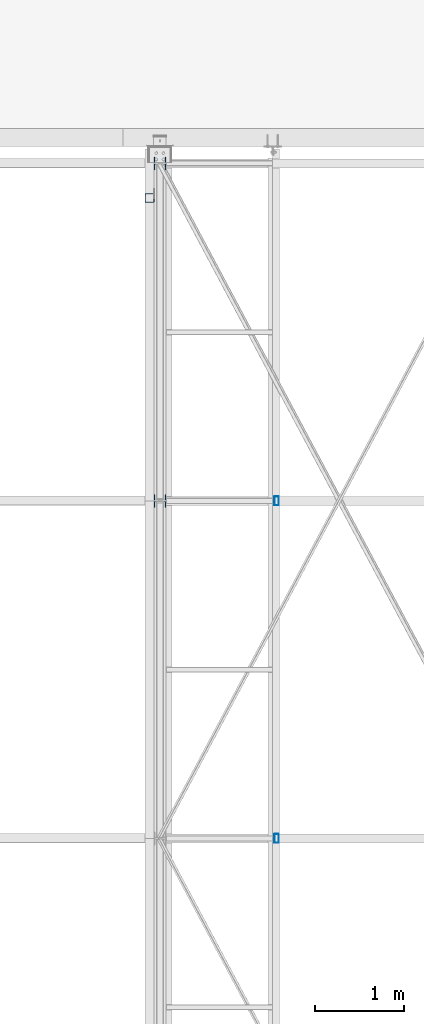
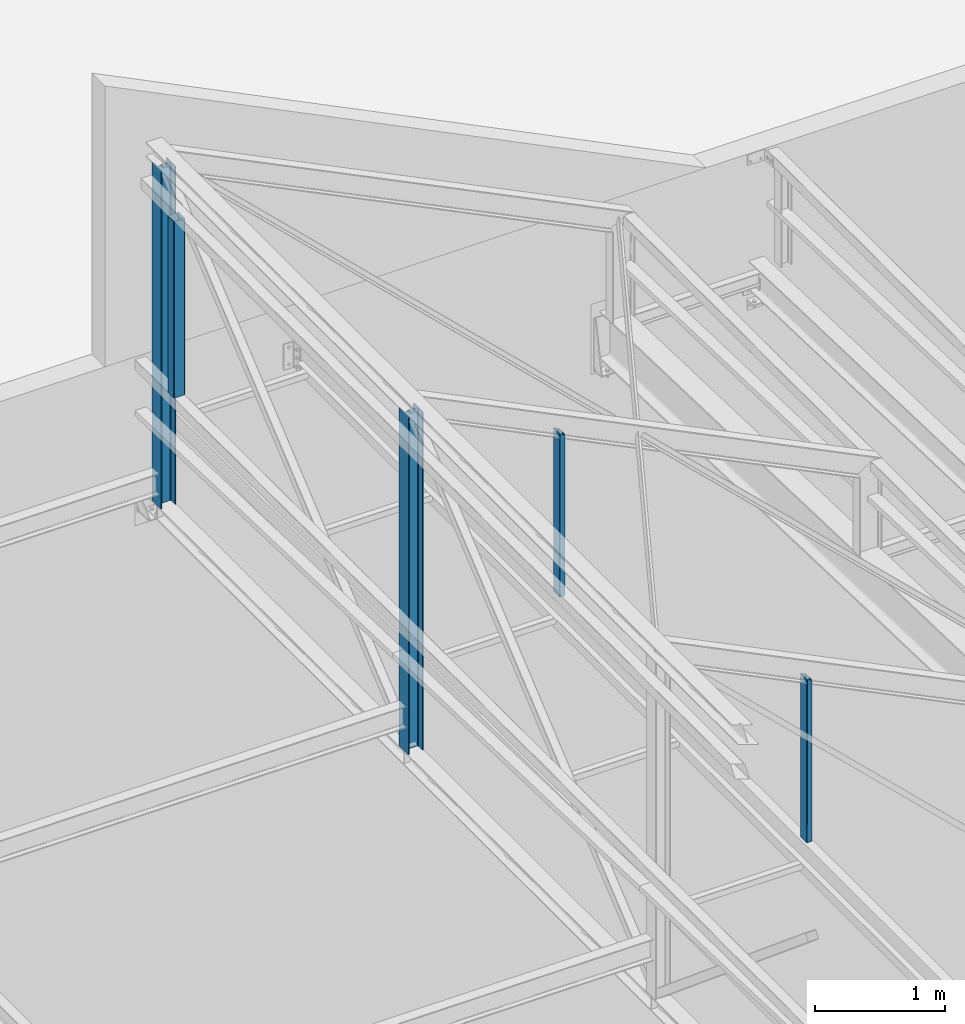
# One storey, part 14 of 123: 5 columns, 5 elements without a shape of their own.
"""IFC2X3 building model written with IfcOpenShell, lengths in millimetres."""

from ifc_helpers import new_model, si_unit, frame, origin_with_axes, origin_2d_with_axis, place, context, subcontext, project, spatial, hollow_rectangle, i_section, extrude, clip, halfspace, material, type_object, element, aggregate, save


model = new_model("IFC2X3")

# Units and contexts
model_context = context("Model", 3, precision=1e-05, world=origin_with_axes())
body_context = subcontext(model_context, "Body", "Model", "MODEL_VIEW")
ifc_project = project(units=[si_unit("LENGTHUNIT", "METRE", prefix="MILLI"), si_unit("AREAUNIT", "SQUARE_METRE"), si_unit("VOLUMEUNIT", "CUBIC_METRE"), si_unit("MASSUNIT", "GRAM", prefix="KILO"), si_unit("TIMEUNIT", "SECOND"), si_unit("PLANEANGLEUNIT", "RADIAN"), si_unit("SOLIDANGLEUNIT", "STERADIAN"), si_unit("THERMODYNAMICTEMPERATUREUNIT", "DEGREE_CELSIUS"), si_unit("LUMINOUSINTENSITYUNIT", "LUMEN")], contexts=[model_context])

# Site, building, storey
site_placement = place(None, origin_with_axes())
site = spatial("IfcSite", under=ifc_project, at=site_placement, Name="Undefined", CompositionType="ELEMENT")
building_placement = place(site_placement, origin_with_axes())
building = spatial("IfcBuilding", under=site, at=building_placement, Name="Undefined", CompositionType="ELEMENT")
storey_placement = place(building_placement, origin_with_axes())
storey = spatial("IfcBuildingStorey", under=building, at=storey_placement, Name="Undefined", CompositionType="ELEMENT", Elevation=0.0)

# Assembly, column
assembly_1_placement = place(storey_placement, origin_with_axes())
assembly_1 = element("IfcElementAssembly", 1, at=assembly_1_placement, inside=storey, Name="Steel Assembly", AssemblyPlace="NOTDEFINED", PredefinedType="RIGID_FRAME")
ifc_material_1 = material(Name="STEEL/S235-E24")
column_type_1 = type_object("IfcColumnType", Name="TUBE-R-100*50*3", PredefinedType="NOTDEFINED")
column_1_placement = place(assembly_1_placement, frame((35593.9917140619, 11400.0, 8240.0), z_axis=(0.0, 0.0, 1.0), x_axis=(0.0, -1.0, 0.0)))
column_1 = element("IfcColumn", 2, at=column_1_placement, type_object=column_type_1, material=ifc_material_1, Name="SUSPENTE", ObjectType="TUBE-R-100*50*3", context=body_context, shape_type="Clipping", body=[
    clip(extrude(hollow_rectangle(XDim=50.0, YDim=100.0, WallThickness=3.0, InnerFilletRadius=3.0, OuterFilletRadius=6.0, at=origin_2d_with_axis()), frame((0.0, 0.0, 1535.3690648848), z_axis=(0.0, 0.0, -1.0), x_axis=(0.0, 1.0, 0.0)), (0.0, 0.0, 1.0), 1535.4), halfspace(frame((0.0, -38.9853790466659, 1542.15556004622), z_axis=(0.0, -0.442968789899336, -0.896537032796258), x_axis=(1.0, 0.0, 0.0)), True)),
])
aggregate(assembly_1, [column_1])

assembly_2_placement = place(storey_placement, origin_with_axes())
assembly_2 = element("IfcElementAssembly", 3, at=assembly_2_placement, inside=storey, Name="Steel Assembly", AssemblyPlace="NOTDEFINED", PredefinedType="RIGID_FRAME")
column_2_placement = place(assembly_2_placement, frame((35593.9917140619, 7600.0, 8240.0), z_axis=(0.0, 0.0, 1.0), x_axis=(0.0, -1.0, 0.0)))
column_2 = element("IfcColumn", 4, at=column_2_placement, type_object=column_type_1, material=ifc_material_1, Name="SUSPENTE", ObjectType="TUBE-R-100*50*3", context=body_context, shape_type="Clipping", body=[
    clip(extrude(hollow_rectangle(XDim=50.0, YDim=100.0, WallThickness=3.0, InnerFilletRadius=3.0, OuterFilletRadius=6.0, at=origin_2d_with_axis()), frame((0.0, 0.0, 1535.3690648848), z_axis=(0.0, 0.0, -1.0), x_axis=(0.0, 1.0, 0.0)), (0.0, 0.0, 1.0), 1535.4), halfspace(frame((0.0, -38.9853790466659, 1542.15556004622), z_axis=(0.0, -0.442968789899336, -0.896537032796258), x_axis=(1.0, 0.0, 0.0)), True)),
])
aggregate(assembly_2, [column_2])

assembly_3_placement = place(storey_placement, origin_with_axes())
assembly_3 = element("IfcElementAssembly", 5, at=assembly_3_placement, inside=storey, Name="Steel Assembly", AssemblyPlace="NOTDEFINED", PredefinedType="RIGID_FRAME")
ifc_material_2 = material(Name="STEEL/S275-E28")
column_type_2 = type_object("IfcColumnType", Name="HEA140", PredefinedType="NOTDEFINED")
column_3_placement = place(assembly_3_placement, frame((34280.0, 11400.0, 7250.0), z_axis=(0.0, 0.0, 1.0), x_axis=(-1.0, 0.0, 0.0)))
column_3 = element("IfcColumn", 6, at=column_3_placement, type_object=column_type_2, material=ifc_material_2, Name="MONTANT", ObjectType="HEA140", context=body_context, shape_type="SweptSolid", body=[
    extrude(i_section(OverallWidth=140.0, OverallDepth=133.0, WebThickness=5.5, FlangeThickness=8.5, FilletRadius=12.0, at=origin_2d_with_axis()), frame((0.0, 0.0, 3173.0), z_axis=(0.0, 0.0, -1.0), x_axis=(0.0, 1.0, 0.0)), (0.0, 0.0, 1.0), 3173.0),
])
aggregate(assembly_3, [column_3])

assembly_4_placement = place(storey_placement, origin_with_axes())
assembly_4 = element("IfcElementAssembly", 7, at=assembly_4_placement, inside=storey, Name="Steel Assembly", AssemblyPlace="NOTDEFINED", PredefinedType="RIGID_FRAME")
column_4_placement = place(assembly_4_placement, frame((34280.0, 15200.0, 7250.0), z_axis=(0.0, 0.0, 1.0), x_axis=(-1.0, 0.0, 0.0)))
column_4 = element("IfcColumn", 8, at=column_4_placement, type_object=column_type_2, material=ifc_material_2, Name="MONTANT", ObjectType="HEA140", context=body_context, shape_type="SweptSolid", body=[
    extrude(i_section(OverallWidth=140.0, OverallDepth=133.0, WebThickness=5.5, FlangeThickness=8.5, FilletRadius=12.0, at=origin_2d_with_axis()), frame((0.0, 0.0, 3173.0), z_axis=(0.0, 0.0, -1.0), x_axis=(0.0, 1.0, 0.0)), (0.0, 0.0, 1.0), 3173.0),
])
aggregate(assembly_4, [column_4])

assembly_5_placement = place(storey_placement, origin_with_axes())
assembly_5 = element("IfcElementAssembly", 9, at=assembly_5_placement, inside=storey, Name="Steel Assembly", AssemblyPlace="NOTDEFINED", PredefinedType="RIGID_FRAME")
column_type_3 = type_object("IfcColumnType", Name="TUBE-C-100*100*4", PredefinedType="NOTDEFINED")
column_5_placement = place(assembly_5_placement, frame((34163.5000102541, 14810.0001585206, 8550.00000000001), z_axis=(0.0, 0.0, 1.0), x_axis=(0.0, 1.0, 0.0)))
column_5 = element("IfcColumn", 10, at=column_5_placement, type_object=column_type_3, material=ifc_material_1, Name="MONTANT", ObjectType="TUBE-C-100*100*4", context=body_context, shape_type="SweptSolid", body=[
    extrude(hollow_rectangle(XDim=100.0, YDim=100.0, WallThickness=4.0, InnerFilletRadius=4.0, OuterFilletRadius=8.0, at=origin_2d_with_axis()), frame((0.0, 0.0, 1655.0), z_axis=(0.0, 0.0, -1.0), x_axis=(0.0, 1.0, 0.0)), (0.0, 0.0, 1.0), 1655.0),
])
aggregate(assembly_5, [column_5])

save(model, "model.ifc")
